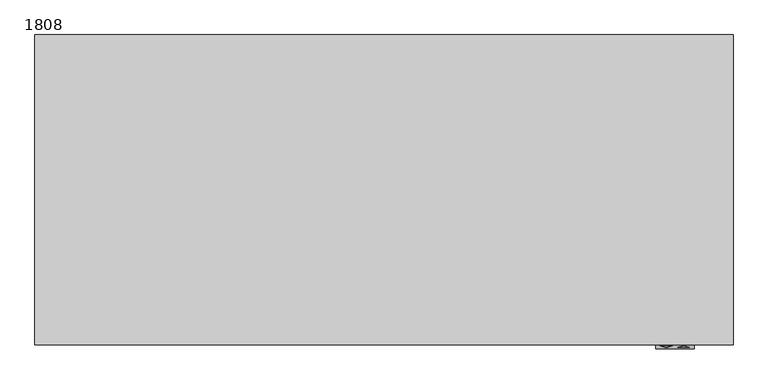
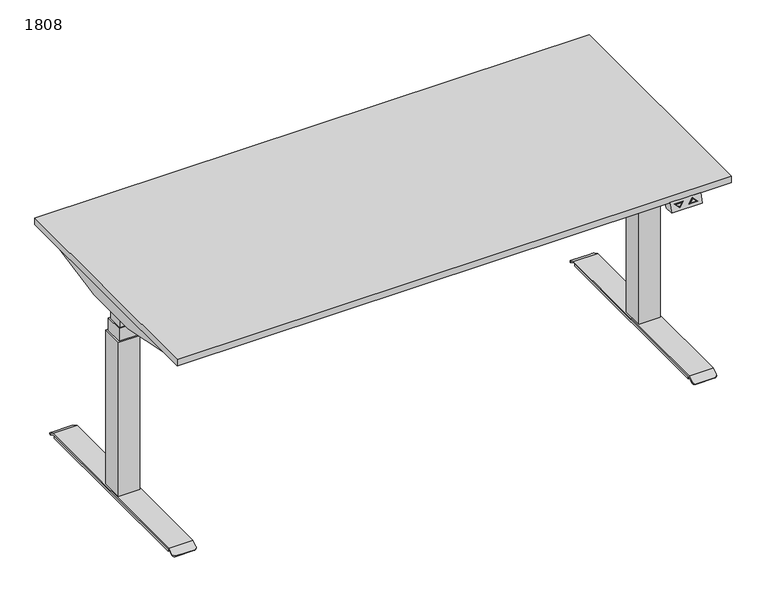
"""IFC4 building model written with IfcOpenShell, lengths in millimetres: furniture geometry, PINTA EQC : 1808."""

from ifc_helpers import new_model, si_unit, point, frame, frame_2d, origin, origin_with_axes, place, context, project, spatial, polyline, circle_curve, trimmed, segment, composite_curve, outline, extrude, faceted_brep, source, transform, mapped, element, save
from ifc_brep_helpers import plane_surface, cylinder_surface, advanced_brep


def furniture_1808_76e83d38(model_context):
    return source(origin(), model_context, "Body", "SolidModel", [
        faceted_brep([(700.0, -810.0, 668.0), (700.0, -780.0, 668.0), (800.0, -780.0, 668.0), (800.0, -810.0, 668.0), (700.0, -800.0, 698.0), (800.0, -800.0, 698.0), (800.0, -770.0, 698.0), (700.0, -770.0, 698.0), (712.5, -802.6491106, 690.0526681), (742.5, -802.6491106, 690.0526681), (727.5, -807.3925271, 675.8224186), (787.5, -806.9174824, 677.2475529), (757.5, -806.9174824, 677.2475529), (772.5, -802.1740659, 691.4778023), (727.5, -806.4980999, 678.5057002), (737.6715729, -803.2815662, 688.1553015), (717.3284271, -803.2815662, 688.1553015), (782.6715729, -806.2850268, 679.1449195), (772.5, -803.0684931, 688.7945208), (762.3284271, -806.2850268, 679.1449195), (742.5, -801.7004273, 689.7364403), (712.5, -801.7004273, 689.7364403), (727.5, -806.4438438, 675.5061908), (737.6715729, -802.3328829, 687.8390737), (727.5, -805.5494166, 678.1894724), (717.3284271, -802.3328829, 687.8390737), (757.5, -805.9687991, 676.9313251), (787.5, -805.9687991, 676.9313251), (772.5, -801.2253826, 691.1615746), (772.5, -802.1198098, 688.478293), (782.6715729, -805.3363436, 678.8286917), (762.3284271, -805.3363436, 678.8286917)], [[[0, 1, 2, 3]], [[4, 5, 6, 7]], [[1, 0, 4, 7]], [[3, 2, 6, 5]], [[0, 3, 5, 4], [8, 9, 10], [11, 12, 13]], [[14, 15, 16]], [[17, 18, 19]], [[2, 1, 7, 6]], [[20, 21, 22], [23, 24, 25]], [[26, 27, 28], [29, 30, 31]], [[21, 20, 9, 8]], [[22, 21, 8, 10]], [[20, 22, 10, 9]], [[27, 26, 12, 11]], [[28, 27, 11, 13]], [[26, 28, 13, 12]], [[24, 23, 15, 14]], [[25, 24, 14, 16]], [[23, 25, 16, 15]], [[30, 29, 18, 17]], [[31, 30, 17, 19]], [[29, 31, 19, 18]]]),
        extrude(outline(polyline([(-880.0, -319.7732113), (880.0, -319.7733158), (880.0, -339.7733158), (-880.0, -339.7732113), (-880.0, -319.7732113)])), frame((0.0, 0.0, 658.0), z_axis=(0.0, 0.0, 1.0), x_axis=(1.0, 0.0, 0.0)), (0.0, 0.0, 1.0), 40.0),
        extrude(outline(polyline([(-880.0, -459.7732114), (880.0, -459.7733158), (880.0, -479.7733158), (-880.0, -479.7732114), (-880.0, -459.7732114)])), frame((0.0, 0.0, 658.0), z_axis=(0.0, 0.0, 1.0), x_axis=(1.0, 0.0, 0.0)), (0.0, 0.0, 1.0), 40.0),
        extrude(outline(polyline([(-900.0, -800.0), (-900.0, 0.0), (900.0, 0.0), (900.0, -800.0), (-900.0, -800.0)])), frame((0.0, 0.0, 698.0), z_axis=(0.0, 0.0, 1.0), x_axis=(1.0, 0.0, 0.0)), (0.0, 0.0, 1.0), 22.0),
        advanced_brep(
        [(806.9772339, -720.0, 6.0), (806.9772339, -720.0, 16.0), (806.9772339, -80.0, 16.0), (806.9772339, -80.0, 6.0), (883.0227661, -80.0, 16.0), (883.0227661, -80.0, 6.0), (883.0227661, -720.0, 16.0), (883.0227661, -720.0, 6.0), (806.0, -75.0, 20.0), (806.0, -56.9800481, 9.908827), (806.0, -58.9344616, 6.4188029), (806.0, -76.0437422, 16.0), (806.0, -723.9562578, 16.0), (806.0, -741.0655384, 6.4188029), (806.0, -743.0199519, 9.908827), (806.0, -725.0, 20.0), (884.0, -76.0437422, 16.0), (884.0, -58.9344616, 6.4188029), (884.0, -56.9800481, 9.908827), (884.0, -75.0, 20.0), (884.0, -725.0, 20.0), (884.0, -743.0199519, 9.908827), (884.0, -741.0655384, 6.4188029), (884.0, -723.9562578, 16.0), (814.0, -750.0, 6.0), (876.0, -750.0, 6.0), (814.0, -748.0455865, 2.5099759), (876.0, -748.0455865, 2.5099759), (814.0, -51.9544135, 2.5099759), (876.0, -51.9544135, 2.5099759), (814.0, -50.0, 6.0), (876.0, -50.0, 6.0)],
        [
            (0, 1),
            (1, 2),
            (2, 3),
            (3, 0),
            (2, 4),
            (4, 5),
            (5, 3),
            (4, 6),
            (6, 7),
            (7, 5),
            (6, 1),
            (0, 7),
            (8, 9),
            (9, 10),
            (10, 11),
            (11, 12),
            (12, 13),
            (13, 14),
            (14, 15),
            (15, 8),
            (16, 17),
            (17, 18),
            (18, 19),
            (19, 20),
            (20, 21),
            (21, 22),
            (22, 23),
            (23, 16),
            (15, 20),
            (19, 8),
            (11, 16),
            (23, 12),
            (14, 24, circle_curve(frame((814.0, -743.0199519, 9.908827), z_axis=(0.0, -0.4886033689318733, 0.8725060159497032), x_axis=(0.0, 0.8725060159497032, 0.4886033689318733)), 8.0)),
            (24, 25),
            (25, 21, circle_curve(frame((876.0, -743.0199519, 9.908827), z_axis=(0.0, -0.4886033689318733, 0.8725060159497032), x_axis=(0.0, 0.8725060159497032, 0.4886033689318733)), 8.0)),
            (24, 26),
            (26, 27),
            (27, 25),
            (22, 27, circle_curve(frame((876.0, -741.0655384, 6.4188029), z_axis=(0.0, 0.4886033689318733, -0.8725060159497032), x_axis=(0.0, 0.8725060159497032, 0.4886033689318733)), 8.0)),
            (26, 13, circle_curve(frame((814.0, -741.0655384, 6.4188029), z_axis=(0.0, 0.4886033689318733, -0.8725060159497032), x_axis=(0.0, 0.8725060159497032, 0.4886033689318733)), 8.0)),
            (10, 28, circle_curve(frame((814.0, -58.9344616, 6.4188029), z_axis=(0.0, -0.4886033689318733, -0.8725060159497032), x_axis=(0.0, -0.8725060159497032, 0.4886033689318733)), 8.0)),
            (28, 29),
            (29, 17, circle_curve(frame((876.0, -58.9344616, 6.4188029), z_axis=(0.0, -0.4886033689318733, -0.8725060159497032), x_axis=(0.0, -0.8725060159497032, 0.4886033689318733)), 8.0)),
            (28, 30),
            (30, 31),
            (31, 29),
            (18, 31, circle_curve(frame((876.0, -56.9800481, 9.908827), z_axis=(0.0, 0.4886033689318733, 0.8725060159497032), x_axis=(0.0, -0.8725060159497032, 0.4886033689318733)), 8.0)),
            (30, 9, circle_curve(frame((814.0, -56.9800481, 9.908827), z_axis=(0.0, 0.4886033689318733, 0.8725060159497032), x_axis=(0.0, -0.8725060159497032, 0.4886033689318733)), 8.0)),
        ],
        [
            plane_surface(frame((806.9772339, -720.0, 16.0), z_axis=(-1.0, 0.0, 0.0), x_axis=(0.0, 0.0, -1.0))),
            plane_surface(frame((806.9772339, -80.0, 16.0), z_axis=(0.0, 1.0, 0.0), x_axis=(0.0, 0.0, -1.0))),
            plane_surface(frame((883.0227661, -80.0, 16.0), z_axis=(1.0, 0.0, 0.0), x_axis=(0.0, 0.0, -1.0))),
            plane_surface(frame((883.0227661, -720.0, 16.0), z_axis=(0.0, -1.0, 0.0), x_axis=(0.0, 0.0, -1.0))),
            plane_surface(frame((806.9772339, -723.4188232, 6.0), z_axis=(0.0, 0.0, -1.0), x_axis=(0.0, -1.0, 0.0))),
            plane_surface(frame((806.0, -400.0, 20.0), z_axis=(-1.0, 0.0, 0.0), x_axis=(0.0, -1.0, 0.0))),
            plane_surface(frame((884.0, -400.0, 20.0), z_axis=(1.0, 0.0, 0.0), x_axis=(0.0, 1.0, 0.0))),
            plane_surface(frame((806.0, -75.0, 20.0), z_axis=(0.0, 0.0, 1.0), x_axis=(1.0, 0.0, 0.0))),
            plane_surface(frame((806.0, -723.9562578, 16.0), z_axis=(0.0, 0.0, -1.0), x_axis=(1.0, 0.0, 0.0))),
            plane_surface(frame((806.0, -725.0, 20.0), z_axis=(0.0, -0.4886033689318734, 0.8725060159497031), x_axis=(1.0, 0.0, 0.0))),
            plane_surface(frame((806.0, -750.0, 6.0), z_axis=(0.0, -0.872506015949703, -0.4886033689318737), x_axis=(1.0, 0.0, 0.0))),
            plane_surface(frame((806.0, -748.0455865, 2.5099759), z_axis=(0.0, 0.4886033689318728, -0.8725060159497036), x_axis=(1.0, 0.0, 0.0))),
            plane_surface(frame((806.0, -76.0437422, 16.0), z_axis=(0.0, -0.4886033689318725, -0.8725060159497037), x_axis=(1.0, 0.0, 0.0))),
            plane_surface(frame((806.0, -51.9544135, 2.5099759), z_axis=(0.0, 0.8725060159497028, -0.48860336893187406), x_axis=(1.0, 0.0, 0.0))),
            plane_surface(frame((806.0, -50.0, 6.0), z_axis=(0.0, 0.48860336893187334, 0.8725060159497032), x_axis=(1.0, 0.0, 0.0))),
            cylinder_surface(frame((814.0, -743.0199519, 9.908827), z_axis=(0.0, -0.4886033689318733, 0.8725060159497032), x_axis=(0.0, 0.8725060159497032, 0.4886033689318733)), 8.0),
            cylinder_surface(frame((876.0, -743.0199519, 9.908827), z_axis=(0.0, -0.4886033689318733, 0.8725060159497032), x_axis=(0.0, 0.8725060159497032, 0.4886033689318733)), 8.0),
            cylinder_surface(frame((814.0, -56.9800481, 9.908827), z_axis=(0.0, 0.4886033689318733, 0.8725060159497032), x_axis=(0.0, -0.8725060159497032, 0.4886033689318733)), 8.0),
            cylinder_surface(frame((876.0, -56.9800481, 9.908827), z_axis=(0.0, 0.4886033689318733, 0.8725060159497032), x_axis=(0.0, -0.8725060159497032, 0.4886033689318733)), 8.0),
        ],
        [
            (0, [[1, 2, 3, 4]]),
            (1, [[-3, 5, 6, 7]]),
            (2, [[-6, 8, 9, 10]]),
            (3, [[-9, 11, -1, 12]]),
            (4, [[-4, -7, -10, -12]]),
            (5, [[13, 14, 15, 16, 17, 18, 19, 20]]),
            (6, [[21, 22, 23, 24, 25, 26, 27, 28]]),
            (7, [[29, -24, 30, -20]]),
            (8, [[31, -28, 32, -16], [-11, -8, -5, -2]]),
            (9, [[-19, 33, 34, 35, -25, -29]]),
            (10, [[36, 37, 38, -34]]),
            (11, [[-27, 39, -37, 40, -17, -32]]),
            (12, [[-15, 41, 42, 43, -21, -31]]),
            (13, [[44, 45, 46, -42]]),
            (14, [[-23, 47, -45, 48, -13, -30]]),
            (15, [[-40, -36, -33, -18]]),
            (16, [[-35, -38, -39, -26]]),
            (17, [[-48, -44, -41, -14]]),
            (18, [[-43, -46, -47, -22]]),
        ],
    ),
        faceted_brep([(679.4551307, -460.0, 698.0), (862.9996948, -460.0, 698.0), (862.9996948, -700.0, 698.0), (879.4551307, -700.0, 698.0), (883.0, -700.0, 698.0), (883.0, -100.0, 698.0), (879.4551307, -100.0, 698.0), (862.9996948, -100.0, 698.0), (862.9996948, -340.0, 698.0), (679.4551307, -340.0, 698.0), (679.4551307, -460.0, 635.2327881), (679.4551307, -340.0, 635.2327881), (879.4551307, -340.0, 635.2327881), (879.4551307, -303.8252348, 635.2327881), (883.0, -303.8252348, 635.2327881), (883.0, -496.1747652, 635.2327881), (879.4551307, -496.1747652, 635.2327881), (879.4551307, -460.0, 635.2327881), (862.9996948, -340.0, 694.9093018), (879.4551307, -340.0, 694.9093018), (879.4551307, -460.0, 694.9093018), (862.9996948, -460.0, 694.9093018), (879.4551307, -700.0, 694.9093018), (862.9996948, -700.0, 694.9093018), (879.4551307, -100.0, 694.9093018), (862.9996948, -100.0, 694.9093018), (879.4551307, -101.1249222, 694.9093018), (879.4551307, -698.8750778, 694.9093018), (879.4551307, -108.5505036, 674.5076845), (879.4551307, -691.4494964, 674.5076845), (883.0, -108.5505036, 674.5076845), (883.0, -691.4494964, 674.5076845)], [[[0, 1, 2, 3, 4, 5, 6, 7, 8, 9]], [[10, 11, 12, 13, 14, 15, 16, 17]], [[9, 11, 10, 0]], [[11, 9, 8, 18, 19, 12]], [[17, 20, 21, 1, 0, 10]], [[22, 3, 2, 23]], [[24, 25, 7, 6]], [[24, 26, 19, 18, 25]], [[23, 21, 20, 27, 22]], [[2, 1, 21, 23]], [[25, 18, 8, 7]], [[13, 12, 19, 26, 28]], [[29, 27, 20, 17, 16]], [[15, 14, 30, 5, 4, 31]], [[16, 15, 31, 29]], [[22, 27, 3]], [[6, 26, 24]], [[4, 3, 27, 29, 31]], [[28, 30, 14, 13]], [[30, 28, 26, 6, 5]]]),
        extrude(outline(composite_curve([segment(trimmed(circle_curve(frame_2d((845.0, -705.0)), 25.0), [point((870.0, -705.0))], [point((820.0, -705.0))], False, "CARTESIAN"), True, "CONTINUOUS"), segment(trimmed(circle_curve(frame_2d((845.0, -705.0)), 25.0), [point((820.0, -705.0))], [point((870.0, -705.0))], False, "CARTESIAN"), True, "CONTINUOUS")], self_intersect=False)), origin_with_axes(), (0.0, 0.0, 1.0), 6.0),
        extrude(outline(composite_curve([segment(trimmed(circle_curve(frame_2d((845.0, -95.0)), 25.0), [point((870.0, -95.0))], [point((820.0, -95.0))], False, "CARTESIAN"), True, "CONTINUOUS"), segment(trimmed(circle_curve(frame_2d((845.0, -95.0)), 25.0), [point((820.0, -95.0))], [point((870.0, -95.0))], False, "CARTESIAN"), True, "CONTINUOUS")], self_intersect=False)), origin_with_axes(), (0.0, 0.0, 1.0), 6.0),
        faceted_brep([(810.0, -365.0, 550.0), (810.0, -434.9621325, 550.0), (880.0, -434.9621325, 550.0), (880.0, -365.0, 550.0), (875.0, -370.0, 550.0), (875.0, -429.9621325, 550.0), (815.0, -429.9621325, 550.0), (815.0, -370.0, 550.0), (810.0, -365.0, 20.0), (880.0, -365.0, 20.0), (880.0, -434.9621325, 20.0), (810.0, -434.9621325, 20.0), (815.0, -370.0, 592.616394), (815.0, -429.9621325, 592.616394), (875.0, -429.9621325, 592.616394), (875.0, -370.0, 592.616394), (870.0, -375.0, 592.616394), (870.0, -424.9621325, 592.616394), (820.0, -424.9621325, 592.616394), (820.0, -375.0, 592.616394), (820.0, -375.0, 635.2327881), (820.0, -424.9621325, 635.2327881), (870.0, -424.9621325, 635.2327881), (870.0, -375.0, 635.2327881)], [[[0, 1, 2, 3], [4, 5, 6, 7]], [[8, 9, 10, 11]], [[3, 9, 8, 0]], [[2, 10, 9, 3]], [[1, 11, 10, 2]], [[0, 8, 11, 1]], [[12, 13, 14, 15], [16, 17, 18, 19]], [[15, 4, 7, 12]], [[14, 5, 4, 15]], [[13, 6, 5, 14]], [[12, 7, 6, 13]], [[20, 21, 22, 23]], [[23, 16, 19, 20]], [[22, 17, 16, 23]], [[21, 18, 17, 22]], [[20, 19, 18, 21]]]),
        advanced_brep(
        [(-806.9772339, -720.0, 6.0), (-806.9772339, -80.0, 6.0), (-806.9772339, -80.0, 16.0), (-806.9772339, -720.0, 16.0), (-883.0227661, -80.0, 6.0), (-883.0227661, -80.0, 16.0), (-883.0227661, -720.0, 6.0), (-883.0227661, -720.0, 16.0), (-806.0, -75.0, 20.0), (-806.0, -725.0, 20.0), (-806.0, -743.0199519, 9.908827), (-806.0, -741.0655384, 6.4188029), (-806.0, -723.9562578, 16.0), (-806.0, -76.0437422, 16.0), (-806.0, -58.9344616, 6.4188029), (-806.0, -56.9800481, 9.908827), (-884.0, -76.0437422, 16.0), (-884.0, -723.9562578, 16.0), (-884.0, -741.0655384, 6.4188029), (-884.0, -743.0199519, 9.908827), (-884.0, -725.0, 20.0), (-884.0, -75.0, 20.0), (-884.0, -56.9800481, 9.908827), (-884.0, -58.9344616, 6.4188029), (-876.0, -750.0, 6.0), (-814.0, -750.0, 6.0), (-876.0, -748.0455865, 2.5099759), (-814.0, -748.0455865, 2.5099759), (-876.0, -51.9544135, 2.5099759), (-814.0, -51.9544135, 2.5099759), (-876.0, -50.0, 6.0), (-814.0, -50.0, 6.0)],
        [
            (0, 1),
            (1, 2),
            (2, 3),
            (3, 0),
            (1, 4),
            (4, 5),
            (5, 2),
            (4, 6),
            (6, 7),
            (7, 5),
            (6, 0),
            (3, 7),
            (8, 9),
            (9, 10),
            (10, 11),
            (11, 12),
            (12, 13),
            (13, 14),
            (14, 15),
            (15, 8),
            (16, 17),
            (17, 18),
            (18, 19),
            (19, 20),
            (20, 21),
            (21, 22),
            (22, 23),
            (23, 16),
            (8, 21),
            (20, 9),
            (12, 17),
            (16, 13),
            (19, 24, circle_curve(frame((-876.0, -743.0199519, 9.908827), z_axis=(0.0, -0.4886033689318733, 0.8725060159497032), x_axis=(0.0, 0.8725060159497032, 0.4886033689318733)), 8.0)),
            (24, 25),
            (25, 10, circle_curve(frame((-814.0, -743.0199519, 9.908827), z_axis=(0.0, -0.4886033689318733, 0.8725060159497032), x_axis=(0.0, 0.8725060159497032, 0.4886033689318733)), 8.0)),
            (24, 26),
            (26, 27),
            (27, 25),
            (11, 27, circle_curve(frame((-814.0, -741.0655384, 6.4188029), z_axis=(0.0, 0.4886033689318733, -0.8725060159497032), x_axis=(0.0, 0.8725060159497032, 0.4886033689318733)), 8.0)),
            (26, 18, circle_curve(frame((-876.0, -741.0655384, 6.4188029), z_axis=(0.0, 0.4886033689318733, -0.8725060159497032), x_axis=(0.0, 0.8725060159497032, 0.4886033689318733)), 8.0)),
            (23, 28, circle_curve(frame((-876.0, -58.9344616, 6.4188029), z_axis=(0.0, -0.4886033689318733, -0.8725060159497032), x_axis=(0.0, -0.8725060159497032, 0.4886033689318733)), 8.0)),
            (28, 29),
            (29, 14, circle_curve(frame((-814.0, -58.9344616, 6.4188029), z_axis=(0.0, -0.4886033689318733, -0.8725060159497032), x_axis=(0.0, -0.8725060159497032, 0.4886033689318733)), 8.0)),
            (28, 30),
            (30, 31),
            (31, 29),
            (15, 31, circle_curve(frame((-814.0, -56.9800481, 9.908827), z_axis=(0.0, 0.4886033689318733, 0.8725060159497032), x_axis=(0.0, -0.8725060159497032, 0.4886033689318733)), 8.0)),
            (30, 22, circle_curve(frame((-876.0, -56.9800481, 9.908827), z_axis=(0.0, 0.4886033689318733, 0.8725060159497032), x_axis=(0.0, -0.8725060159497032, 0.4886033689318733)), 8.0)),
        ],
        [
            plane_surface(frame((-806.9772339, -720.0, 16.0), z_axis=(1.0, 0.0, 0.0), x_axis=(0.0, 0.0, -1.0))),
            plane_surface(frame((-806.9772339, -80.0, 16.0), z_axis=(0.0, 1.0, 0.0), x_axis=(0.0, 0.0, -1.0))),
            plane_surface(frame((-883.0227661, -80.0, 16.0), z_axis=(-1.0, 0.0, 0.0), x_axis=(0.0, 0.0, -1.0))),
            plane_surface(frame((-883.0227661, -720.0, 16.0), z_axis=(0.0, -1.0, 0.0), x_axis=(0.0, 0.0, -1.0))),
            plane_surface(frame((-806.9772339, -723.4188232, 6.0), z_axis=(0.0, 0.0, -1.0), x_axis=(0.0, -1.0, 0.0))),
            plane_surface(frame((-806.0, -400.0, 20.0), z_axis=(1.0, 0.0, 0.0), x_axis=(0.0, -1.0, 0.0))),
            plane_surface(frame((-884.0, -400.0, 20.0), z_axis=(-1.0, 0.0, 0.0), x_axis=(0.0, 1.0, 0.0))),
            plane_surface(frame((-806.0, -75.0, 20.0), z_axis=(0.0, 0.0, 1.0), x_axis=(-1.0, 0.0, 0.0))),
            plane_surface(frame((-806.0, -723.9562578, 16.0), z_axis=(0.0, 0.0, -1.0), x_axis=(-1.0, 0.0, 0.0))),
            plane_surface(frame((-806.0, -725.0, 20.0), z_axis=(0.0, -0.4886033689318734, 0.8725060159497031), x_axis=(-1.0, 0.0, 0.0))),
            plane_surface(frame((-806.0, -750.0, 6.0), z_axis=(0.0, -0.872506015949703, -0.4886033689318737), x_axis=(-1.0, 0.0, 0.0))),
            plane_surface(frame((-806.0, -748.0455865, 2.5099759), z_axis=(0.0, 0.4886033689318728, -0.8725060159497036), x_axis=(-1.0, 0.0, 0.0))),
            plane_surface(frame((-806.0, -76.0437422, 16.0), z_axis=(0.0, -0.4886033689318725, -0.8725060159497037), x_axis=(-1.0, 0.0, 0.0))),
            plane_surface(frame((-806.0, -51.9544135, 2.5099759), z_axis=(0.0, 0.8725060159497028, -0.48860336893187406), x_axis=(-1.0, 0.0, 0.0))),
            plane_surface(frame((-806.0, -50.0, 6.0), z_axis=(0.0, 0.48860336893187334, 0.8725060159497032), x_axis=(-1.0, 0.0, 0.0))),
            cylinder_surface(frame((-814.0, -743.0199519, 9.908827), z_axis=(0.0, -0.4886033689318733, 0.8725060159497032), x_axis=(0.0, 0.8725060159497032, 0.4886033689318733)), 8.0),
            cylinder_surface(frame((-876.0, -743.0199519, 9.908827), z_axis=(0.0, -0.4886033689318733, 0.8725060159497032), x_axis=(0.0, 0.8725060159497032, 0.4886033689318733)), 8.0),
            cylinder_surface(frame((-814.0, -56.9800481, 9.908827), z_axis=(0.0, 0.4886033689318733, 0.8725060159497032), x_axis=(0.0, -0.8725060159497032, 0.4886033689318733)), 8.0),
            cylinder_surface(frame((-876.0, -56.9800481, 9.908827), z_axis=(0.0, 0.4886033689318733, 0.8725060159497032), x_axis=(0.0, -0.8725060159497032, 0.4886033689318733)), 8.0),
        ],
        [
            (0, [[1, 2, 3, 4]]),
            (1, [[5, 6, 7, -2]]),
            (2, [[8, 9, 10, -6]]),
            (3, [[11, -4, 12, -9]]),
            (4, [[-11, -8, -5, -1]]),
            (5, [[13, 14, 15, 16, 17, 18, 19, 20]]),
            (6, [[21, 22, 23, 24, 25, 26, 27, 28]]),
            (7, [[-13, 29, -25, 30]]),
            (8, [[-17, 31, -21, 32], [-3, -7, -10, -12]]),
            (9, [[-30, -24, 33, 34, 35, -14]]),
            (10, [[-34, 36, 37, 38]]),
            (11, [[-31, -16, 39, -37, 40, -22]]),
            (12, [[-32, -28, 41, 42, 43, -18]]),
            (13, [[-42, 44, 45, 46]]),
            (14, [[-29, -20, 47, -45, 48, -26]]),
            (15, [[-15, -35, -38, -39]]),
            (16, [[-23, -40, -36, -33]]),
            (17, [[-19, -43, -46, -47]]),
            (18, [[-27, -48, -44, -41]]),
        ],
    ),
        faceted_brep([(-679.4551307, -460.0, 698.0), (-679.4551307, -340.0, 698.0), (-862.9996948, -340.0, 698.0), (-862.9996948, -100.0, 698.0), (-879.4551307, -100.0, 698.0), (-883.0, -100.0, 698.0), (-883.0, -700.0, 698.0), (-879.4551307, -700.0, 698.0), (-862.9996948, -700.0, 698.0), (-862.9996948, -460.0, 698.0), (-679.4551307, -460.0, 635.2327881), (-879.4551307, -460.0, 635.2327881), (-879.4551307, -496.1747652, 635.2327881), (-883.0, -496.1747652, 635.2327881), (-883.0, -303.8252348, 635.2327881), (-879.4551307, -303.8252348, 635.2327881), (-879.4551307, -340.0, 635.2327881), (-679.4551307, -340.0, 635.2327881), (-879.4551307, -340.0, 694.9093018), (-862.9996948, -340.0, 694.9093018), (-862.9996948, -460.0, 694.9093018), (-879.4551307, -460.0, 694.9093018), (-879.4551307, -700.0, 694.9093018), (-862.9996948, -700.0, 694.9093018), (-879.4551307, -100.0, 694.9093018), (-862.9996948, -100.0, 694.9093018), (-879.4551307, -698.8750778, 694.9093018), (-879.4551307, -101.1249222, 694.9093018), (-879.4551307, -691.4494964, 674.5076845), (-879.4551307, -108.5505036, 674.5076845), (-883.0, -691.4494964, 674.5076845), (-883.0, -108.5505036, 674.5076845)], [[[0, 1, 2, 3, 4, 5, 6, 7, 8, 9]], [[10, 11, 12, 13, 14, 15, 16, 17]], [[1, 0, 10, 17]], [[17, 16, 18, 19, 2, 1]], [[11, 10, 0, 9, 20, 21]], [[22, 23, 8, 7]], [[24, 4, 3, 25]], [[23, 22, 26, 21, 20]], [[24, 25, 19, 18, 27]], [[8, 23, 20, 9]], [[25, 3, 2, 19]], [[28, 12, 11, 21, 26]], [[15, 29, 27, 18, 16]], [[13, 30, 6, 5, 31, 14]], [[12, 28, 30, 13]], [[22, 7, 26]], [[4, 24, 27]], [[6, 30, 28, 26, 7]], [[29, 15, 14, 31]], [[31, 5, 4, 27, 29]]]),
        extrude(outline(composite_curve([segment(trimmed(circle_curve(frame_2d((-845.0, -705.0)), 25.0), [point((-870.0, -705.0))], [point((-820.0, -705.0))], False, "CARTESIAN"), True, "CONTINUOUS"), segment(trimmed(circle_curve(frame_2d((-845.0, -705.0)), 25.0), [point((-820.0, -705.0))], [point((-870.0, -705.0))], False, "CARTESIAN"), True, "CONTINUOUS")], self_intersect=False)), origin_with_axes(), (0.0, 0.0, 1.0), 6.0),
        extrude(outline(composite_curve([segment(trimmed(circle_curve(frame_2d((-845.0, -95.0)), 25.0), [point((-870.0, -95.0))], [point((-820.0, -95.0))], False, "CARTESIAN"), True, "CONTINUOUS"), segment(trimmed(circle_curve(frame_2d((-845.0, -95.0)), 25.0), [point((-820.0, -95.0))], [point((-870.0, -95.0))], False, "CARTESIAN"), True, "CONTINUOUS")], self_intersect=False)), origin_with_axes(), (0.0, 0.0, 1.0), 6.0),
        faceted_brep([(-810.0, -365.0, 550.0), (-880.0, -365.0, 550.0), (-880.0, -434.9621325, 550.0), (-810.0, -434.9621325, 550.0), (-875.0, -370.0, 550.0), (-815.0, -370.0, 550.0), (-815.0, -429.9621325, 550.0), (-875.0, -429.9621325, 550.0), (-810.0, -365.0, 20.0), (-810.0, -434.9621325, 20.0), (-880.0, -434.9621325, 20.0), (-880.0, -365.0, 20.0), (-815.0, -370.0, 592.616394), (-875.0, -370.0, 592.616394), (-875.0, -429.9621325, 592.616394), (-815.0, -429.9621325, 592.616394), (-870.0, -375.0, 592.616394), (-820.0, -375.0, 592.616394), (-820.0, -424.9621325, 592.616394), (-870.0, -424.9621325, 592.616394), (-820.0, -375.0, 635.2327881), (-870.0, -375.0, 635.2327881), (-870.0, -424.9621325, 635.2327881), (-820.0, -424.9621325, 635.2327881)], [[[0, 1, 2, 3], [4, 5, 6, 7]], [[8, 9, 10, 11]], [[1, 0, 8, 11]], [[2, 1, 11, 10]], [[3, 2, 10, 9]], [[0, 3, 9, 8]], [[12, 13, 14, 15], [16, 17, 18, 19]], [[13, 12, 5, 4]], [[14, 13, 4, 7]], [[15, 14, 7, 6]], [[12, 15, 6, 5]], [[20, 21, 22, 23]], [[21, 20, 17, 16]], [[22, 21, 16, 19]], [[23, 22, 19, 18]], [[20, 23, 18, 17]]]),
    ])


if __name__ == "__main__":
    model = new_model("IFC4")
    model_context = context("Model", 3, world=origin())
    ifc_project = project(units=[si_unit("LENGTHUNIT", "METRE", prefix="MILLI")], contexts=[model_context])
    site = spatial("IfcSite", under=ifc_project)
    building = spatial("IfcBuilding", under=site)
    placement = place(None, origin())
    furniture_1808_shape = furniture_1808_76e83d38(model_context)
    element("IfcFurniture", 1, ObjectType="PINTA EQC : 1808", at=placement, inside=building, context=model_context, shape_type="MappedRepresentation", body=[
        mapped(furniture_1808_shape, transform((0.0, 0.0, 0.0), x_axis=(1.0, 0.0, 0.0), y_axis=(0.0, 1.0, 0.0), z_axis=(0.0, 0.0, 1.0))),
    ])
    save(model, "model.ifc")
